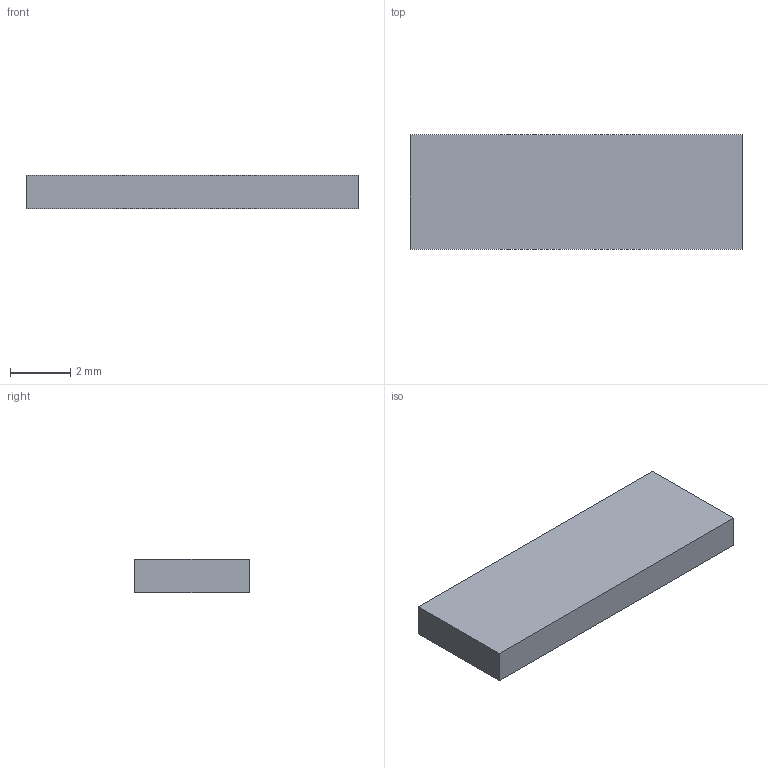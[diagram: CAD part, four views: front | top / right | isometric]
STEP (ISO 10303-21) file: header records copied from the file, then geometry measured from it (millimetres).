
FILE_DESCRIPTION(('Open CASCADE Model'),'2;1');
FILE_NAME('Open CASCADE Shape Model','2026-09-17T14:57:39',('Author'),( 'Open CASCADE'),'Open CASCADE STEP processor 7.8','Open CASCADE 7.8' ,'Unknown');
FILE_SCHEMA(('AUTOMOTIVE_DESIGN { 1 0 10303 214 1 1 1 1 }'));
Length unit declared in the file: millimetre
Products named in the file (1): Open CASCADE STEP translator 7.8 34
Bounding box: 11 x 3.8 x 1.1 mm (x, y, z)
Volume: 46 mm3; surface area: 116.2 mm2
Topology: 1 solids, 1 shells, 6 faces, 12 edges, 8 vertices
Faces by surface type: plane 6
Entity records: 322 total; most frequent: CARTESIAN_POINT 51, DIRECTION 50, LINE 36, VECTOR 36, ORIENTED_EDGE 24, PCURVE 24, DEFINITIONAL_REPRESENTATION 24, EDGE_CURVE 12
